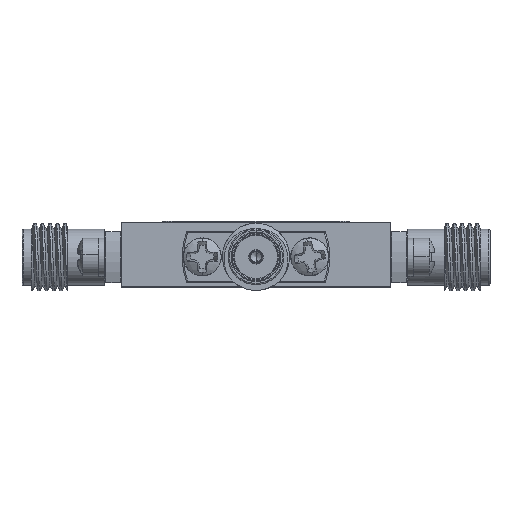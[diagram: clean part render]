
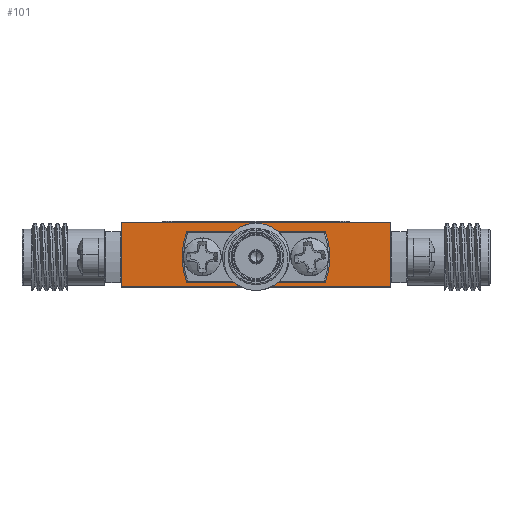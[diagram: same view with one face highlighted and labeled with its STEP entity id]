
A CAD part, top view. The second image highlights one B-rep face of the part: STEP entity #101.
In plain terms, the highlighted planar face has unit normal (0, 0, 1).
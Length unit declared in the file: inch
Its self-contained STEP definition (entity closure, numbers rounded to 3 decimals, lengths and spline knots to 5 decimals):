
#101 = ADVANCED_FACE ( 'NONE', ( #27469 ), #48367, .T. ) ;
#1219 = ORIENTED_EDGE ( 'NONE', *, *, #14169, .T. ) ;
#1525 = ORIENTED_EDGE ( 'NONE', *, *, #66752, .T. ) ;
#5194 = EDGE_CURVE ( 'NONE', #64374, #28704, #18780, .T. ) ;
#5305 = CARTESIAN_POINT ( 'NONE',  ( 0.5, -0.24, 0.6 ) ) ;
#6059 = VECTOR ( 'NONE', #56008, 39.37008 ) ;
#8777 = LINE ( 'NONE', #28810, #50608 ) ;
#10405 = VECTOR ( 'NONE', #41579, 39.37008 ) ;
#14169 = EDGE_CURVE ( 'NONE', #43800, #54749, #36313, .T. ) ;
#16345 = CARTESIAN_POINT ( 'NONE',  ( -0.5, -0.24, 0.6 ) ) ;
#18780 = LINE ( 'NONE', #24192, #6059 ) ;
#20726 = AXIS2_PLACEMENT_3D ( 'NONE', #33253, #38071, #37732 ) ;
#20765 = LINE ( 'NONE', #16345, #10405 ) ;
#24192 = CARTESIAN_POINT ( 'NONE',  ( -0.5, -0.24, 0.6 ) ) ;
#27469 = FACE_OUTER_BOUND ( 'NONE', #52844, .T. ) ;
#28285 = EDGE_CURVE ( 'NONE', #28704, #54749, #8777, .T. ) ;
#28704 = VERTEX_POINT ( 'NONE', #47442 ) ;
#28810 = CARTESIAN_POINT ( 'NONE',  ( -0.5, 0., 0.6 ) ) ;
#29535 = CARTESIAN_POINT ( 'NONE',  ( 0.5, 0., 0.6 ) ) ;
#29817 = DIRECTION ( 'NONE',  ( 1., 0., 0. ) ) ;
#33253 = CARTESIAN_POINT ( 'NONE',  ( -0.5, -0.24, 0.6 ) ) ;
#36313 = LINE ( 'NONE', #5305, #50580 ) ;
#36459 = ORIENTED_EDGE ( 'NONE', *, *, #5194, .F. ) ;
#37732 = DIRECTION ( 'NONE',  ( 1., 0., 0. ) ) ;
#38071 = DIRECTION ( 'NONE',  ( 0., 0., 1. ) ) ;
#41579 = DIRECTION ( 'NONE',  ( 1., 0., 0. ) ) ;
#43800 = VERTEX_POINT ( 'NONE', #63240 ) ;
#47442 = CARTESIAN_POINT ( 'NONE',  ( -0.5, 0., 0.6 ) ) ;
#48367 = PLANE ( 'NONE',  #20726 ) ;
#50580 = VECTOR ( 'NONE', #61358, 39.37008 ) ;
#50608 = VECTOR ( 'NONE', #29817, 39.37008 ) ;
#52148 = ORIENTED_EDGE ( 'NONE', *, *, #28285, .F. ) ;
#52844 = EDGE_LOOP ( 'NONE', ( #52148, #36459, #1525, #1219 ) ) ;
#54685 = CARTESIAN_POINT ( 'NONE',  ( -0.5, -0.24, 0.6 ) ) ;
#54749 = VERTEX_POINT ( 'NONE', #29535 ) ;
#56008 = DIRECTION ( 'NONE',  ( 0., 1., 0. ) ) ;
#61358 = DIRECTION ( 'NONE',  ( 0., 1., 0. ) ) ;
#63240 = CARTESIAN_POINT ( 'NONE',  ( 0.5, -0.24, 0.6 ) ) ;
#64374 = VERTEX_POINT ( 'NONE', #54685 ) ;
#66752 = EDGE_CURVE ( 'NONE', #64374, #43800, #20765, .T. ) ;
